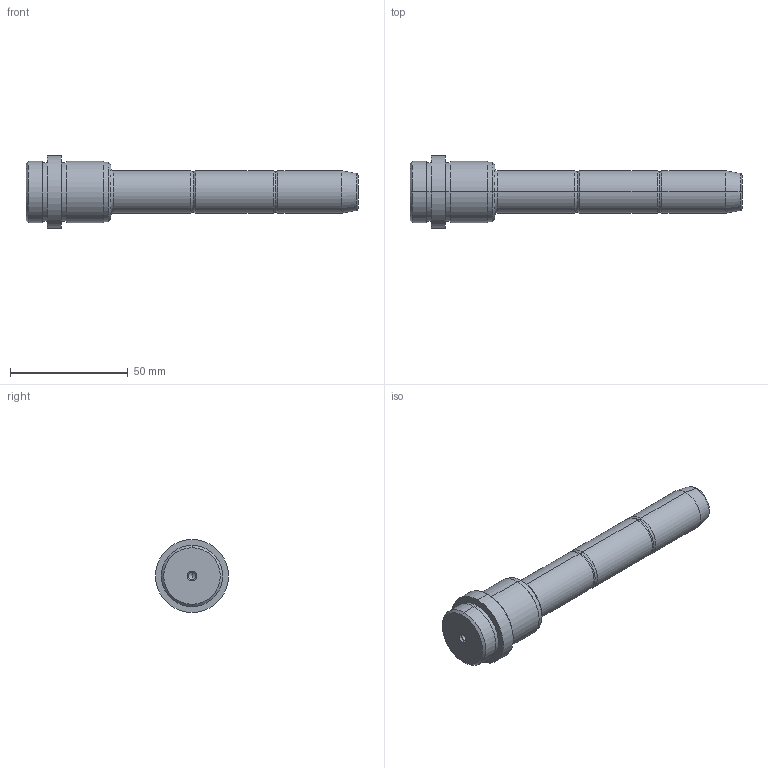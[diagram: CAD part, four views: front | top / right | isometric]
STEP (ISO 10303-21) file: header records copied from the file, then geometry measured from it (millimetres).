
FILE_DESCRIPTION( ( 'STEP AP203' ), '1' );
FILE_NAME( 'C:/Projects/D03 - 18x27x105.step', '2003-01-02T23:47:39', ( ' ' ), ( ' ' ), 'XStep 1.0', ' ', ' ' );
FILE_SCHEMA( ( 'CONFIG_CONTROL_DESIGN' ) );
Length unit declared in the file: metre
Products named in the file (1): 1
Bounding box: 141 x 31 x 31 mm (x, y, z)
Volume: 46734.9 mm3; surface area: 10480 mm2
Topology: 1 solids, 1 shells, 56 faces, 113 edges, 64 vertices
Faces by surface type: revolution 36, bspline 20
Entity records: 1691 total; most frequent: CARTESIAN_POINT 513, ORIENTED_EDGE 220, DIRECTION 218, EDGE_CURVE 110, AXIS2_PLACEMENT_3D 73, CIRCLE 72, EDGE_LOOP 64, VERTEX_POINT 64
